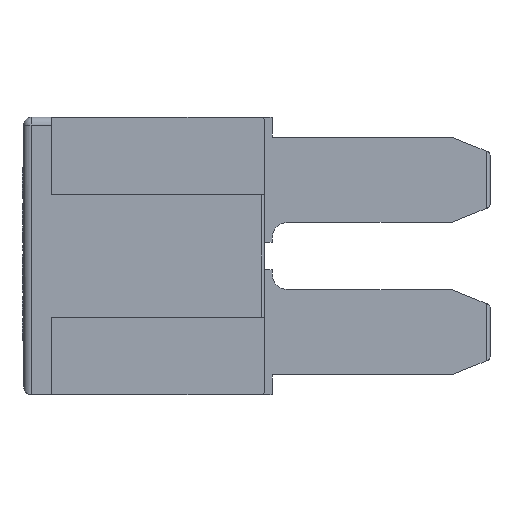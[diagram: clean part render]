
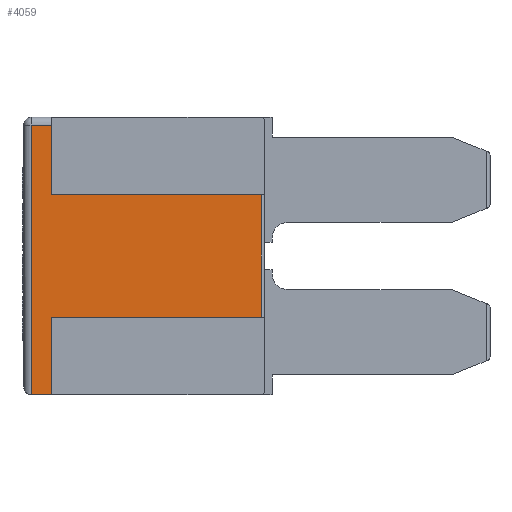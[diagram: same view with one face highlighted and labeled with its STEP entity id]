
A CAD part, left-side view. The second image highlights one B-rep face of the part: STEP entity #4059.
In plain terms, the highlighted planar face has unit normal (-1, 0, 0).
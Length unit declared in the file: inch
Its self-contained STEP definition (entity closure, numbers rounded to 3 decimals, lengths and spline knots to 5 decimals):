
#290=PLANE('',#4317);
#427=FACE_OUTER_BOUND('',#650,.T.);
#650=EDGE_LOOP('',(#2970,#2971,#2972,#2973,#2974,#2975,#2976,#2977));
#937=LINE('',#5509,#1374);
#945=LINE('',#5528,#1382);
#947=LINE('',#5534,#1384);
#958=LINE('',#5562,#1395);
#962=LINE('',#5570,#1399);
#967=LINE('',#5582,#1404);
#968=LINE('',#5583,#1405);
#969=LINE('',#5584,#1406);
#1374=VECTOR('',#4636,0.3937);
#1382=VECTOR('',#4652,0.3937);
#1384=VECTOR('',#4658,0.3937);
#1395=VECTOR('',#4679,0.3937);
#1399=VECTOR('',#4685,0.3937);
#1404=VECTOR('',#4696,0.3937);
#1405=VECTOR('',#4697,0.3937);
#1406=VECTOR('',#4698,0.3937);
#1818=VERTEX_POINT('',#5505);
#1820=VERTEX_POINT('',#5508);
#1827=VERTEX_POINT('',#5525);
#1829=VERTEX_POINT('',#5532);
#1839=VERTEX_POINT('',#5558);
#1841=VERTEX_POINT('',#5561);
#1844=VERTEX_POINT('',#5569);
#1848=VERTEX_POINT('',#5581);
#2252=EDGE_CURVE('',#1820,#1818,#937,.T.);
#2262=EDGE_CURVE('',#1827,#1820,#945,.T.);
#2265=EDGE_CURVE('',#1829,#1818,#947,.T.);
#2278=EDGE_CURVE('',#1841,#1839,#958,.T.);
#2282=EDGE_CURVE('',#1844,#1841,#962,.T.);
#2288=EDGE_CURVE('',#1848,#1829,#967,.T.);
#2289=EDGE_CURVE('',#1848,#1844,#968,.T.);
#2290=EDGE_CURVE('',#1827,#1839,#969,.T.);
#2970=ORIENTED_EDGE('',*,*,#2252,.T.);
#2971=ORIENTED_EDGE('',*,*,#2265,.F.);
#2972=ORIENTED_EDGE('',*,*,#2288,.F.);
#2973=ORIENTED_EDGE('',*,*,#2289,.T.);
#2974=ORIENTED_EDGE('',*,*,#2282,.T.);
#2975=ORIENTED_EDGE('',*,*,#2278,.T.);
#2976=ORIENTED_EDGE('',*,*,#2290,.F.);
#2977=ORIENTED_EDGE('',*,*,#2262,.T.);
#4059=ADVANCED_FACE('',(#427),#290,.T.);
#4317=AXIS2_PLACEMENT_3D('',#5580,#4694,#4695);
#4636=DIRECTION('',(0.,0.,1.));
#4652=DIRECTION('',(0.,1.,0.));
#4658=DIRECTION('',(0.,-1.,0.));
#4679=DIRECTION('',(0.,-1.,0.));
#4685=DIRECTION('',(0.,0.,1.));
#4694=DIRECTION('center_axis',(-1.,0.,0.));
#4695=DIRECTION('ref_axis',(0.,0.,-1.));
#4696=DIRECTION('',(0.,0.,1.));
#4697=DIRECTION('',(0.,-1.,0.));
#4698=DIRECTION('',(0.,0.,-1.));
#5505=CARTESIAN_POINT('',(-0.0748,-0.03602,0.16913));
#5508=CARTESIAN_POINT('',(-0.0748,-0.03602,0.07913));
#5509=CARTESIAN_POINT('',(-0.0748,-0.03602,0.12913));
#5525=CARTESIAN_POINT('',(-0.0748,-0.30702,0.07913));
#5528=CARTESIAN_POINT('',(-0.0748,-0.15551,0.07913));
#5532=CARTESIAN_POINT('',(-0.0748,-0.01,0.16913));
#5534=CARTESIAN_POINT('',(-0.0748,0.,0.16913));
#5558=CARTESIAN_POINT('',(-0.0748,-0.30702,-0.07913));
#5561=CARTESIAN_POINT('',(-0.0748,-0.03602,-0.07913));
#5562=CARTESIAN_POINT('',(-0.0748,-0.15551,-0.07913));
#5569=CARTESIAN_POINT('',(-0.0748,-0.03602,-0.17913));
#5570=CARTESIAN_POINT('',(-0.0748,-0.03602,0.05));
#5580=CARTESIAN_POINT('Origin',(-0.0748,0.,0.17913));
#5581=CARTESIAN_POINT('',(-0.0748,-0.01,-0.17913));
#5582=CARTESIAN_POINT('',(-0.0748,-0.01,0.08957));
#5583=CARTESIAN_POINT('',(-0.0748,0.,-0.17913));
#5584=CARTESIAN_POINT('',(-0.0748,-0.30702,0.));
